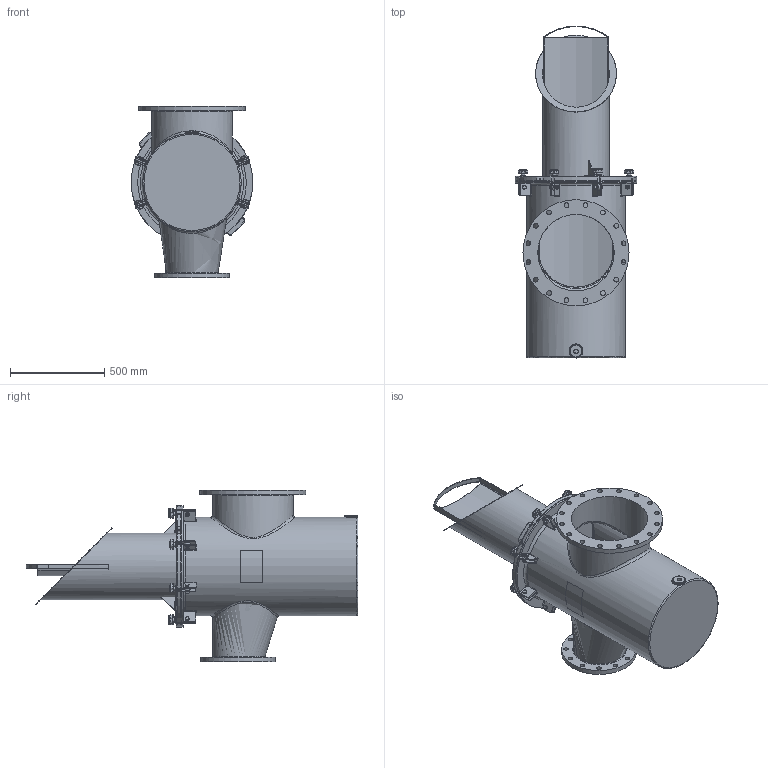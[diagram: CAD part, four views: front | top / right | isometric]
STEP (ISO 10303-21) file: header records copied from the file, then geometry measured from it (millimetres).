
FILE_DESCRIPTION(/* description */ ('400MM X 250MM FIBERGLASS STRAINER BODY'),/* implementation_level */ '2;1');
FILE_NAME(/* name */ 'C:\Users\r.kommineni.ext\Desktop\NB\CAD\Workspace\FG Reducing Strainer\Guardian FG Reducing H&L Strainer (Metric)_CLEARANCE VOLUME\STRAINER H&L 400MM X 250MM.stp',/* time_stamp */ '2017-06-09T13:32:31-04:00',/* author */ ('r.kommineni.ext'),/* organization */ (''),/* preprocessor_version */ 'ST-DEVELOPER v16.1',/* originating_system */ 'Autodesk Inventor 2016',/* authorisation */ '');
FILE_SCHEMA (('CONFIG_CONTROL_DESIGN'));
Length unit declared in the file: inch
Products named in the file (25): NBFGBODY16X10MM; 150NBCVR22R2; 150NBGSK20R1; Perforated Basket 20in; Bride (Ring) 20in; Baffle 20in; Handle 20in; Bottom Strainer 20in; BRACESTRCVR20_Welds; BRACE (BASE) FOR 20 BODY; BRACE (PROJ) FOR 20 BODY; Bumper; BRACESTRCVR20; Nut- 1_2  UNC; Bolt-1_2 x 1 1_2  UNC; EyeBolt; Washer; Knob M10; Securing Assembly For FG  with Brace; Securing Assembly For FG without Brace; Label for 20.625 inch (Right); Label for 20.625 inch (Left); NBBSK14T316_clearance; NBBSK16T316_clearance; STRAINER H&L 400MM X 250MM
Assembly tree (40 placements, depth 3):
  STRAINER H&L 400MM X 250MM
    NBFGBODY16X10MM
    150NBCVR22R2
    150NBGSK20R1
    NBBSK16T316_clearance
      Perforated Basket 20in
      Bride (Ring) 20in
      Baffle 20in
      Handle 20in
      Bottom Strainer 20in
      NBBSK14T316_clearance
    BRACESTRCVR20
      BRACESTRCVR20_Welds
      BRACE (BASE) FOR 20 BODY
      BRACE (PROJ) FOR 20 BODY
      Bumper  x6
    Securing Assembly For FG  with Brace  x2
      Nut- 1_2  UNC
      Bolt-1_2 x 1 1_2  UNC
      EyeBolt
      Washer
      Knob M10
    Securing Assembly For FG without Brace  x6
      Nut- 1_2  UNC
      Bolt-1_2 x 1 1_2  UNC
      EyeBolt
      Washer
      Knob M10
    Label for 20.625 inch (Right)
    Label for 20.625 inch (Left)
Bounding box: 647.7 x 1765.3 x 914.4 mm (x, y, z)
Volume: 34157783.9 mm3; surface area: 9572282 mm2
Topology: 68 solids, 71 shells, 1879 faces, 4330 edges, 2575 vertices
Faces by surface type: cylinder 699, plane 528, cone 184, torus 170, sphere 158, bspline 140
Full cylindrical faces by diameter (mm): 3.175 x11, 6.35 x2, 8.382 x8, 9.525 x16, 10.592 x8, 12.7 x8, 15.875 x16, 19 x16, 19.05 x8, 22.098 x12, 22.809 x1, 25.4 x16, 31.75 x8, 68.263 x1, 355.6 x1, 396.24 x1, 403.225 x2, 406.4 x2, 408.94 x1, 428.625 x1, 508 x2, 511.175 x1, 514.35 x1, 523.875 x1, 563.88 x1, 577.85 x1, 584.2 x1
Entity records: 40000 total; most frequent: CARTESIAN_POINT 15325, DIRECTION 5070, ORIENTED_EDGE 4663, EDGE_CURVE 2356, AXIS2_PLACEMENT_3D 2053, VERTEX_POINT 1490, EDGE_LOOP 1265, ADVANCED_FACE 1029
